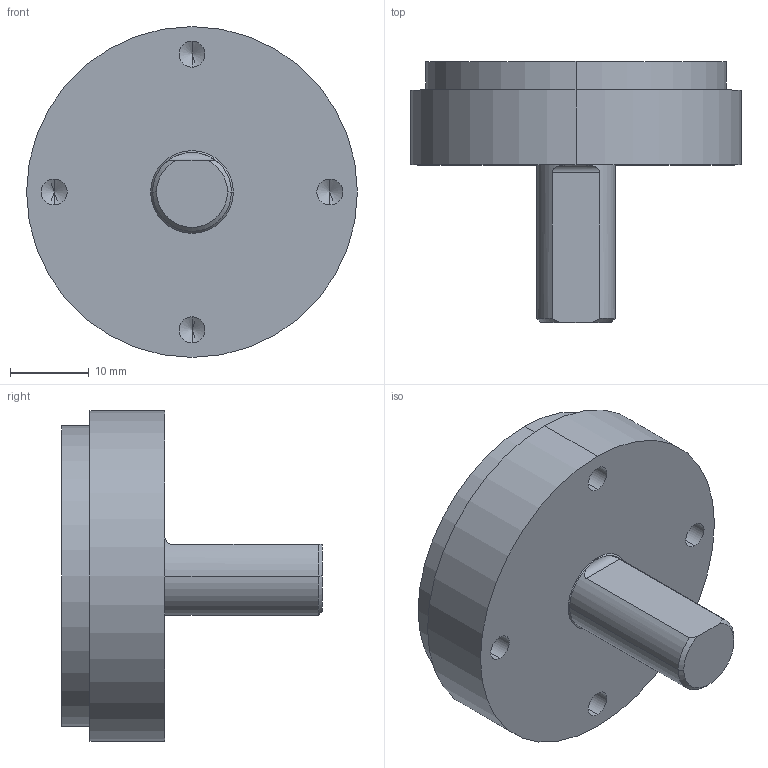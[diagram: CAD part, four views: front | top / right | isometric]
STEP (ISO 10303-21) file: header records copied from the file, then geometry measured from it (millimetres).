
FILE_DESCRIPTION (( 'STEP AP203' ), '1' );
FILE_NAME ('MCD-G10G-Q4A-N.STEP', '2013-05-14T13:26:01', ( '' ), ( '' ), 'SwSTEP 2.0', 'SolidWorks 2006104', '' );
FILE_SCHEMA (( 'CONFIG_CONTROL_DESIGN' ));
Length unit declared in the file: millimetre
Products named in the file (1): MCD-G10G-Q4A-N
Bounding box: 42 x 33.1 x 42 mm (x, y, z)
Volume: 15204 mm3; surface area: 7669.3 mm2
Topology: 1 solids, 1 shells, 54 faces, 119 edges, 70 vertices
Faces by surface type: cylinder 26, cone 17, plane 11
Entity records: 1540 total; most frequent: DIRECTION 275, CARTESIAN_POINT 272, ORIENTED_EDGE 222, AXIS2_PLACEMENT_3D 115, EDGE_CURVE 111, VERTEX_POINT 70, EDGE_LOOP 65, CIRCLE 60
